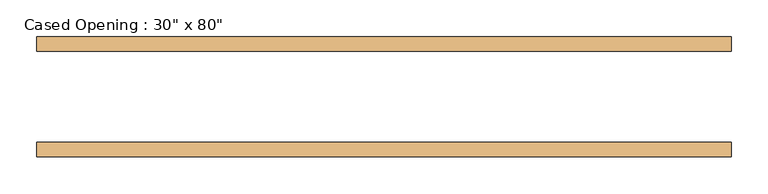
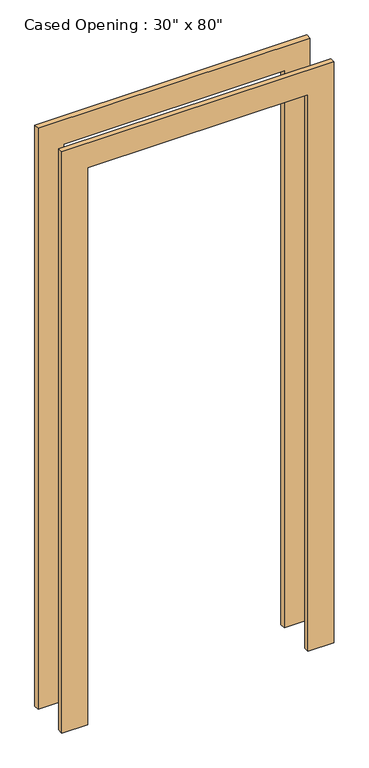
"""IFC4 building model written with IfcOpenShell, lengths in millimetres: door geometry."""

from ifc_helpers import new_model, si_unit, frame, origin, place, context, project, spatial, polyline, outline, extrude, source, transform, mapped, element, save


def door_63e5cb32(model_context):
    return source(origin(), model_context, "Body", "SweptSolid", [
        extrude(outline(polyline([(2120.9, -469.9), (0.0, -469.9), (0.0, -381.0), (2032.0, -381.0), (2032.0, 381.0), (0.0, 381.0), (0.0, 469.9), (2120.9, 469.9), (2120.9, -469.9)])), frame((0.0, -80.9625, 0.0), z_axis=(0.0, 1.0, 0.0), x_axis=(0.0, 0.0, 1.0)), (0.0, 0.0, 1.0), 19.05),
        extrude(outline(polyline([(0.0, -469.9), (0.0, -381.0), (2032.0, -381.0), (2032.0, 381.0), (0.0, 381.0), (0.0, 469.9), (2120.9, 469.9), (2120.9, -469.9), (0.0, -469.9)])), frame((0.0, 61.9125, 0.0), z_axis=(0.0, 1.0, 0.0), x_axis=(0.0, 0.0, 1.0)), (0.0, 0.0, 1.0), 19.05),
    ])


if __name__ == "__main__":
    model = new_model("IFC4")
    model_context = context("Model", 3, world=origin())
    ifc_project = project(units=[si_unit("LENGTHUNIT", "METRE", prefix="MILLI")], contexts=[model_context])
    site = spatial("IfcSite", under=ifc_project)
    building = spatial("IfcBuilding", under=site)
    placement = place(None, origin())
    door_shape = door_63e5cb32(model_context)
    element("IfcDoor", 1, ObjectType="Cased Opening : 30\" x 80\"", at=placement, inside=building, context=model_context, shape_type="MappedRepresentation", body=[
        mapped(door_shape, transform((0.0, 0.0, 0.0), x_axis=(1.0, 0.0, 0.0), y_axis=(0.0, 1.0, 0.0), z_axis=(0.0, 0.0, 1.0))),
    ])
    save(model, "model.ifc")
